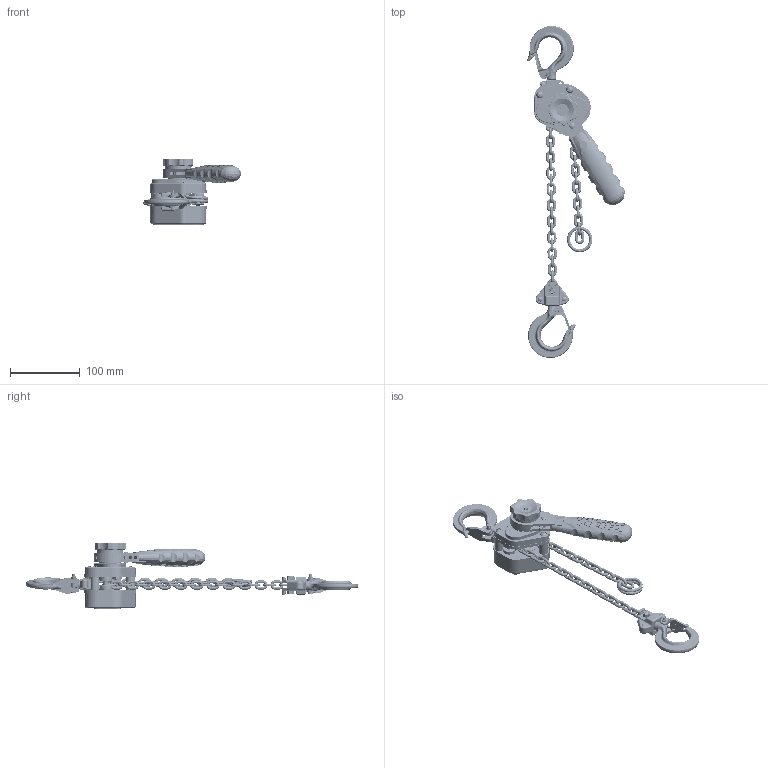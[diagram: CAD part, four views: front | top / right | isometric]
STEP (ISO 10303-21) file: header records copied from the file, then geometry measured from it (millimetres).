
FILE_DESCRIPTION (( 'STEP AP214' ), '1' );
FILE_NAME ('臏磁踢忒啣.STEP', '2023-02-16T02:59:38', ( '' ), ( '' ), 'SwSTEP 2.0', 'SolidWorks 2018', '' );
FILE_SCHEMA (( 'AUTOMOTIVE_DESIGN' ));
Length unit declared in the file: millimetre
Products named in the file (54): 奻像殤穩隊; 奻像粣; え喘謫眣; 盓裝樅; 遙砃粣; M5狟裂种蹟譫; 裂种; 忒梟蹟隊1; れ笭蟈謫; 豪謂; HSH-KX050俋欶褲; 遙砃憔蛈; 忒梟; 臏磁踢忒啣; 秶雄ん釱; 縐坰啣蹟譫; 傻粣; 狟像殤穩隊; 憔蛈粟銅; 酗粣; 藻笠え; 憔蛈; 喘謫嘐隅啣; 酘Х啣; 忒梟蹟隊2; 芧謫; え喘謫樅; 憔蛈种; れ笭蟈沭 - 萵掛; 階裝銅; 秶雄攫; 縐坰啣蹟隊; 裂像; 迕羲粟銅; 轴向挡圈6; 遙砃憔謫; KX050倰憔謫欶; 固定圈; 憔謫; れ笭蟈沭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
Assembly tree (74 placements, depth 3):
  臏磁踢忒啣
    HSH-KX050俋欶褲
    KX050忒謫
    KX050倰憔謫欶
    喘謫嘐隅啣
    れ笭蟈謫
    衵Х啣
    酗粣
    盓裝樅  x2
    盓裝眣
    秶雄攫
    秶雄ん釱
    酘Х啣
    絳謫  x2
    傻粣  x2
    豪謂
    え喘謫樅
    え喘謫眣
    奻像粣
    藻笠え  x2
    憔謫
    憔蛈  x2
    憔蛈粟銅  x2
    憔蛈种  x2
    忒梟
    忒梟杶
    芧謫
    迕羲粟銅
    遙砃憔蛈
    遙砃粣
    階裝銅
    轴向挡圈5  x2
    轴向挡圈23
    轴向挡圈6  x2
    M6  50 繩豪蹟隊  x3
    M6  粟菜  x3
    忒梟蹟隊1
    忒梟蹟隊2
    固定圈
    遙砃憔謫
    蚾饜极3^蚾饜极
      裂种
      狟像殤穩隊  x2
      狟像殤  x2
      M5狟裂种蹟譫
      裂像
      縐坰啣
      縐坰啣蹟譫
      縐坰啣蹟隊
      邧粟銅
    れ笭蟈沭 - 萵掛
    裂像
    奻像殤  x2
    奻像殤穩隊
    縐坰啣
    邧粟銅
    縐坰啣蹟譫
    縐坰啣蹟隊
    れ笭蟈沭
Bounding box: 140.03 x 475.55 x 95.57 mm (x, y, z)
Volume: 355066.1 mm3; surface area: 223730.2 mm2
Topology: 107 solids, 107 shells, 5170 faces, 13365 edges, 8617 vertices
Faces by surface type: cylinder 2087, plane 1566, bspline 911, torus 425, cone 151, sphere 30
Entity records: 183017 total; most frequent: CARTESIAN_POINT 73593, ORIENTED_EDGE 23460, DIRECTION 20832, EDGE_CURVE 11730, AXIS2_PLACEMENT_3D 8244, VERTEX_POINT 7600, EDGE_LOOP 4986, FACE_OUTER_BOUND 4531
